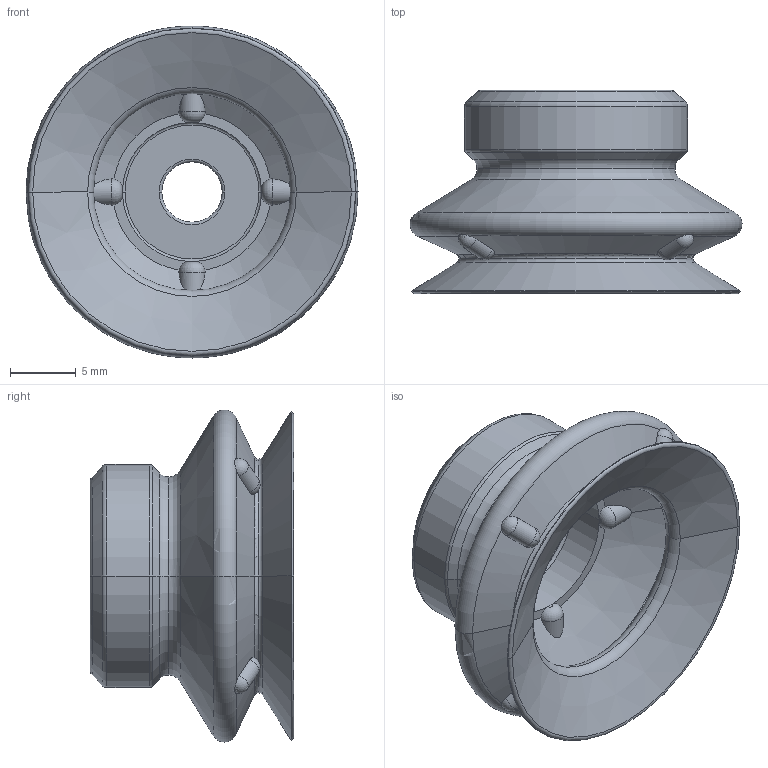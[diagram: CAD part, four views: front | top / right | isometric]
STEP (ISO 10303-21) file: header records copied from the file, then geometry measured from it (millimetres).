
FILE_DESCRIPTION (( 'STEP AP203' ), '1' );
FILE_NAME ('PJG_25--A.STEP', '2018-09-12T07:19:59', ( '' ), ( '' ), 'SwSTEP 2.0', 'SolidWorks 2016', '' );
FILE_SCHEMA (( 'CONFIG_CONTROL_DESIGN' ));
Length unit declared in the file: millimetre
Products named in the file (1): PJG_25--A
Bounding box: 25.3 x 15.5 x 25.3 mm (x, y, z)
Volume: 2235.2 mm3; surface area: 2768.9 mm2
Topology: 1 solids, 1 shells, 89 faces, 215 edges, 128 vertices
Faces by surface type: torus 32, cone 21, cylinder 14, sphere 12, plane 10
Entity records: 2958 total; most frequent: CARTESIAN_POINT 763, DIRECTION 487, ORIENTED_EDGE 438, AXIS2_PLACEMENT_3D 228, EDGE_CURVE 219, CIRCLE 138, VERTEX_POINT 132, EDGE_LOOP 91
